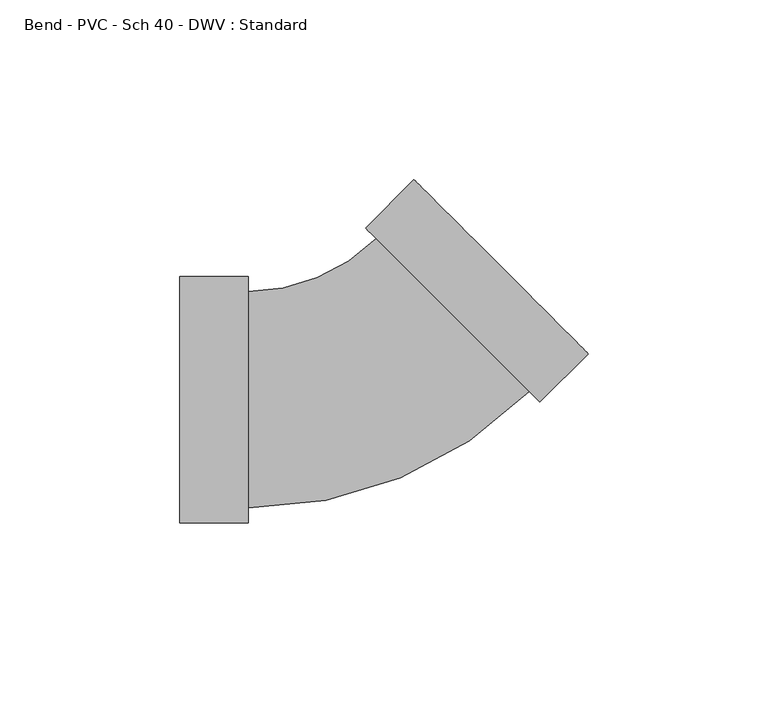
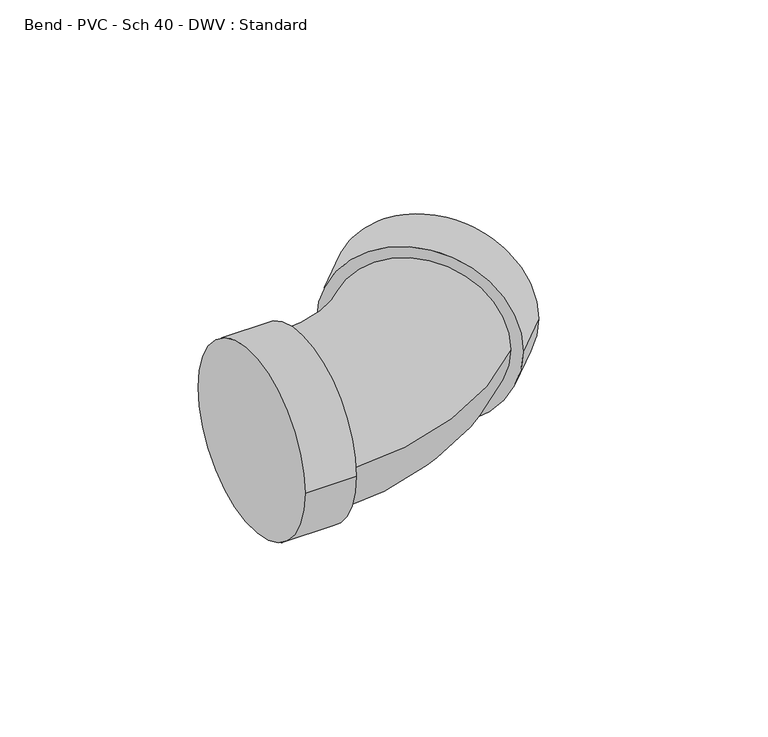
"""IFC4 building model written with IfcOpenShell, lengths in millimetres: pipe fitting geometry, Bend - PVC - Sch 40 - DWV : Standard."""

from ifc_helpers import new_model, si_unit, point, frame, origin, place, context, project, spatial, circle_curve, ellipse_curve, trimmed, source, transform, mapped, element, save
from ifc_brep_helpers import plane_surface, cylinder_surface, revolved_surface, advanced_brep


def bend_pvc_sch_40_dwv_standard_9c01a1c7(model_context):
    return source(origin(), model_context, "Body", "AdvancedBrep", [
        advanced_brep(
        [(-52.4002, -34.3154, 0.0), (-52.4002, 34.3154, 0.0), (-33.3502, -34.3154, 0.0), (-33.3502, 34.3154, 0.0), (-33.3502, -30.1625, 0.0), (-33.3502, 30.1625, 0.0), (2.2520746, 44.9103597, 0.0), (44.910162, 2.256014, 0.0), (47.8468345, -0.680401, 0.0), (-0.684598, 47.8467746, 0.0), (61.3166279, 12.790574, 0.0), (12.7851954, 61.3177496, 0.0)],
        [
            (0, 1, circle_curve(frame((-52.4002, 0.0, 0.0), z_axis=(-1.0, 0.0, 0.0), x_axis=(0.0, 1.0, 0.0)), 34.3154)),
            (1, 0, circle_curve(frame((-52.4002, 0.0, 0.0), z_axis=(-1.0, 0.0, 0.0), x_axis=(0.0, 1.0, 0.0)), 34.3154)),
            (2, 3, circle_curve(frame((-33.3502, 0.0, 0.0), z_axis=(1.0, 0.0, 0.0), x_axis=(0.0, 1.0, 0.0)), 34.3154)),
            (3, 2, circle_curve(frame((-33.3502, 0.0, 0.0), z_axis=(1.0, 0.0, 0.0), x_axis=(0.0, 1.0, 0.0)), 34.3154)),
            (4, 5, circle_curve(frame((-33.3502, 0.0, 0.0), z_axis=(-1.0, 0.0, 0.0), x_axis=(0.0, 1.0, 0.0)), 30.1625)),
            (5, 4, circle_curve(frame((-33.3502, 0.0, 0.0), z_axis=(-1.0, 0.0, 0.0), x_axis=(0.0, 1.0, 0.0)), 30.1625)),
            (0, 2),
            (3, 1),
            (6, 5, circle_curve(frame((-33.3502, 80.5095115, 0.0), z_axis=(0.0, 0.0, -1.0), x_axis=(0.0, -1.0, 0.0)), 50.3470115)),
            (4, 7, circle_curve(frame((-33.3502, 80.5095115, 0.0), z_axis=(0.0, 0.0, 1.0), x_axis=(0.0, -1.0, 0.0)), 110.6720115)),
            (7, 6, circle_curve(frame((23.5811183, 23.5831868, 0.0), z_axis=(-0.7070757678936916, -0.7071377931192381, 0.0), x_axis=(-0.7071377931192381, 0.7070757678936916, 0.0)), 30.1625)),
            (6, 7, circle_curve(frame((23.5811183, 23.5831868, 0.0), z_axis=(-0.7070757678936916, -0.7071377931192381, 0.0), x_axis=(-0.7071377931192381, 0.7070757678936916, 0.0)), 30.1625)),
            (8, 9, circle_curve(frame((23.5811183, 23.5831868, 0.0), z_axis=(-0.7070757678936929, -0.7071377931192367, 0.0), x_axis=(-0.7071377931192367, 0.7070757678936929, 0.0)), 34.3154)),
            (9, 8, circle_curve(frame((23.5811183, 23.5831868, 0.0), z_axis=(-0.7070757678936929, -0.7071377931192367, 0.0), x_axis=(-0.7071377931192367, 0.7070757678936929, 0.0)), 34.3154)),
            (10, 11, circle_curve(frame((37.0509117, 37.0541618, 0.0), z_axis=(0.7070757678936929, 0.7071377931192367, 0.0), x_axis=(-0.7071377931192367, 0.7070757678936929, 0.0)), 34.3154)),
            (11, 10, circle_curve(frame((37.0509117, 37.0541618, 0.0), z_axis=(0.7070757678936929, 0.7071377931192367, 0.0), x_axis=(-0.7071377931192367, 0.7070757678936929, 0.0)), 34.3154)),
            (8, 10),
            (11, 9),
        ],
        [
            plane_surface(frame((-52.4002, 0.0, 0.0), z_axis=(-1.0, 0.0, 0.0), x_axis=(0.0, 0.0, 1.0))),
            plane_surface(frame((-33.3502, 0.0, 0.0), z_axis=(1.0, 0.0, 0.0), x_axis=(0.0, 0.0, 1.0))),
            cylinder_surface(frame((-52.4002, 0.0, 0.0), z_axis=(-1.0, 0.0, 0.0), x_axis=(0.0, 1.0, 0.0)), 34.3154),
            revolved_surface(trimmed(ellipse_curve(frame((-33.3502, 0.0, 0.0), z_axis=(-1.0, 0.0, 0.0), x_axis=(0.0, 1.0, 0.0)), 30.1625, 30.1625), [point((-33.3502, -30.1625, 0.0))], [point((-33.3502, 30.1625, 0.0))], True, "CARTESIAN"), (-33.3502, 80.5095115, 0.0), (0.0, 0.0, 1.0)),
            revolved_surface(trimmed(ellipse_curve(frame((-33.3502, 0.0, 0.0), z_axis=(-1.0, 0.0, 0.0), x_axis=(0.0, 1.0, 0.0)), 30.1625, 30.1625), [point((-33.3502, 30.1625, 0.0))], [point((-33.3502, -30.1625, 0.0))], True, "CARTESIAN"), (-33.3502, 80.5095115, 0.0), (0.0, 0.0, 1.0)),
            plane_surface(frame((23.5811183, 23.5831868, 0.0), z_axis=(-0.7070757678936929, -0.7071377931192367, 0.0), x_axis=(0.0, 0.0, 1.0))),
            plane_surface(frame((37.0509117, 37.0541618, 0.0), z_axis=(0.7070757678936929, 0.7071377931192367, 0.0), x_axis=(0.0, 0.0, 1.0))),
            cylinder_surface(frame((23.5811183, 23.5831868, 0.0), z_axis=(-0.7070757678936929, -0.7071377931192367, 0.0), x_axis=(-0.7071377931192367, 0.7070757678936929, 0.0)), 34.3154),
        ],
        [
            (0, [[1, 2]]),
            (1, [[3, 4], [5, 6]]),
            (2, [[-1, 7, -4, 8]]),
            (2, [[-2, -8, -3, -7]]),
            (3, [[9, -5, 10, 11]]),
            (4, [[-9, 12, -10, -6]]),
            (5, [[13, 14], [-11, -12]]),
            (6, [[15, 16]]),
            (7, [[-13, 17, -16, 18]]),
            (7, [[-14, -18, -15, -17]]),
        ],
    ),
    ])


if __name__ == "__main__":
    model = new_model("IFC4")
    model_context = context("Model", 3, world=origin())
    ifc_project = project(units=[si_unit("LENGTHUNIT", "METRE", prefix="MILLI")], contexts=[model_context])
    site = spatial("IfcSite", under=ifc_project)
    building = spatial("IfcBuilding", under=site)
    placement = place(None, origin())
    bend_pvc_sch_40_dwv_standard_shape = bend_pvc_sch_40_dwv_standard_9c01a1c7(model_context)
    element("IfcPipeFitting", 1, ObjectType="Bend - PVC - Sch 40 - DWV : Standard", at=placement, inside=building, context=model_context, shape_type="MappedRepresentation", body=[
        mapped(bend_pvc_sch_40_dwv_standard_shape, transform((0.0, 0.0, 0.0), x_axis=(1.0, 0.0, 0.0), y_axis=(0.0, 1.0, 0.0), z_axis=(0.0, 0.0, 1.0))),
    ])
    save(model, "model.ifc")
